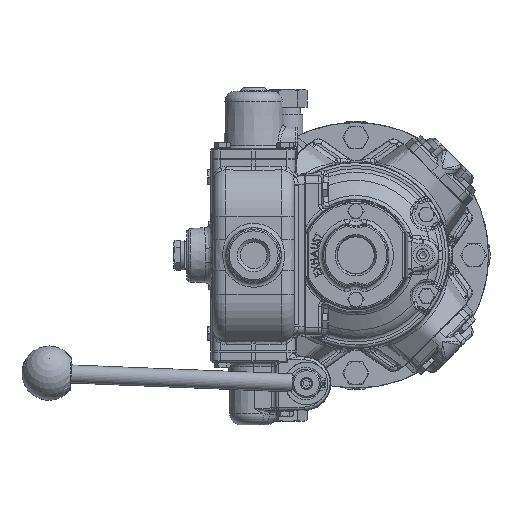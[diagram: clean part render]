
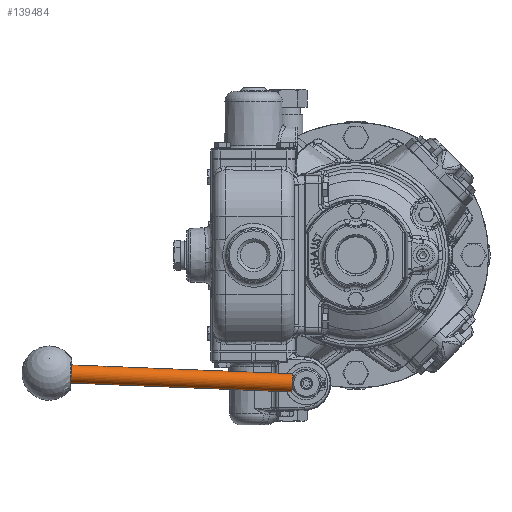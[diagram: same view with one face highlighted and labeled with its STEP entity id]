
A CAD part, left-side view. The second image highlights one B-rep face of the part: STEP entity #139484.
In plain terms, the highlighted cylindrical face has radius 6.35 mm (diameter 12.7 mm), a full revolution.
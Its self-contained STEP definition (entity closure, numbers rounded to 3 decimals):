
#1401 = CARTESIAN_POINT ( 'NONE',  ( -147.7, 217.353, -82.411 ) ) ;
#1760 = FACE_OUTER_BOUND ( 'NONE', #12690, .T. ) ;
#3519 = DIRECTION ( 'NONE',  ( 0., 0.04, -0.999 ) ) ;
#12690 = EDGE_LOOP ( 'NONE', ( #30497 ) ) ;
#27288 = CARTESIAN_POINT ( 'NONE',  ( -147.7, 217.607, -88.756 ) ) ;
#30497 = ORIENTED_EDGE ( 'NONE', *, *, #149028, .T. ) ;
#59273 = DIRECTION ( 'NONE',  ( 0., 0.04, -0.999 ) ) ;
#72120 = CIRCLE ( 'NONE', #130189, 6.35 ) ;
#72131 = DIRECTION ( 'NONE',  ( 0., 0.999, 0.04 ) ) ;
#83140 = FACE_OUTER_BOUND ( 'NONE', #198183, .T. ) ;
#86317 = AXIS2_PLACEMENT_3D ( 'NONE', #122620, #175964, #156730 ) ;
#91558 = ORIENTED_EDGE ( 'NONE', *, *, #124115, .T. ) ;
#99147 = AXIS2_PLACEMENT_3D ( 'NONE', #1401, #133055, #3519 ) ;
#106417 = CARTESIAN_POINT ( 'NONE',  ( -147.7, 44.492, -89.349 ) ) ;
#122620 = CARTESIAN_POINT ( 'NONE',  ( -147.7, 219.351, -82.331 ) ) ;
#124115 = EDGE_CURVE ( 'NONE', #138645, #138645, #72120, .T. ) ;
#126795 = CYLINDRICAL_SURFACE ( 'NONE', #86317, 6.35 ) ;
#130189 = AXIS2_PLACEMENT_3D ( 'NONE', #106417, #72131, #59273 ) ;
#133055 = DIRECTION ( 'NONE',  ( 0., -0.999, -0.04 ) ) ;
#138645 = VERTEX_POINT ( 'NONE', #155704 ) ;
#139484 = ADVANCED_FACE ( 'NONE', ( #83140, #1760 ), #126795, .T. ) ;
#149028 = EDGE_CURVE ( 'NONE', #208124, #208124, #150512, .T. ) ;
#150512 = CIRCLE ( 'NONE', #99147, 6.35 ) ;
#155704 = CARTESIAN_POINT ( 'NONE',  ( -147.7, 44.747, -95.694 ) ) ;
#156730 = DIRECTION ( 'NONE',  ( 0., 0.04, -0.999 ) ) ;
#175964 = DIRECTION ( 'NONE',  ( 0., 0.999, 0.04 ) ) ;
#198183 = EDGE_LOOP ( 'NONE', ( #91558 ) ) ;
#208124 = VERTEX_POINT ( 'NONE', #27288 ) ;
